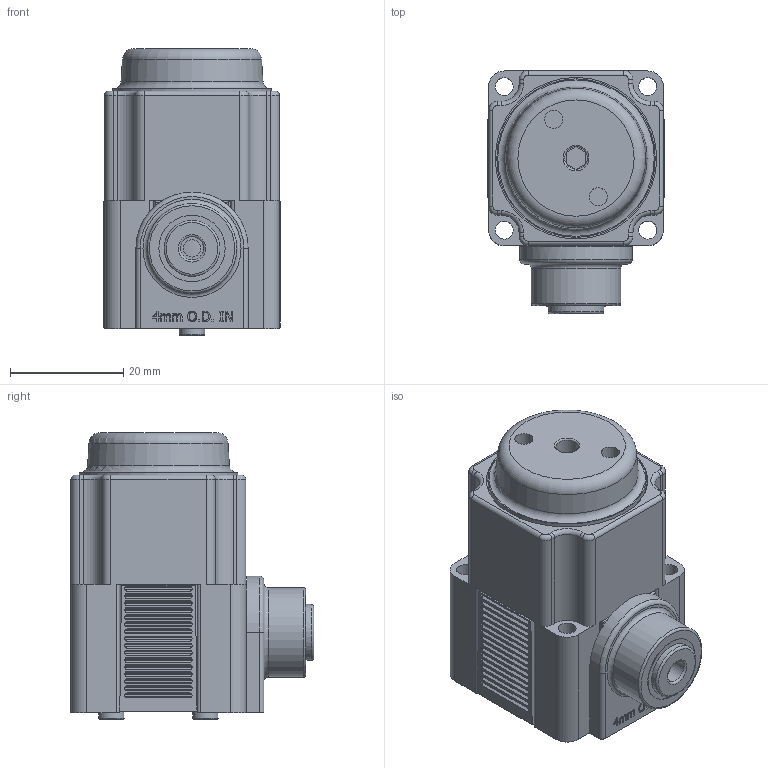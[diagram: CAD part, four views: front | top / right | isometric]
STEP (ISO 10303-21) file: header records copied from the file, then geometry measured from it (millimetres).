
FILE_DESCRIPTION(/* description */ (''),/* implementation_level */ '2;1');
FILE_NAME(/* name */ 'K:\Normteile INVENTOR\Air-Logic\Regulators\PR6000\PR 6___ 7 Push-In Fitting for 4mm O.D. Tube In.igs.ipt.stp',/* time_stamp */ '2020-05-27T10:53:08+02:00',/* author */ ('Paul'),/* organization */ (''),/* preprocessor_version */ 'ST-DEVELOPER v18',/* originating_system */ 'Autodesk Inventor 2020',/* authorisation */ '');
FILE_SCHEMA (('AUTOMOTIVE_DESIGN { 1 0 10303 214 3 1 1 }'));
Length unit declared in the file: inch
Products named in the file (1): PR 6___ 7 Push-In Fitting for 4mm O.D. Tube In.igs
Bounding box: 31.19 x 43.08 x 50.78 mm (x, y, z)
Volume: 41686.5 mm3; surface area: 13718.3 mm2
Topology: 1 solids, 1 shells, 790 faces, 2051 edges, 1352 vertices
Faces by surface type: plane 413, cylinder 274, bspline 66, torus 34, cone 3
Full cylindrical faces by diameter (mm): 1.194 x1, 2.032 x1, 3.073 x1, 3.124 x2, 3.175 x8, 3.226 x2, 4.013 x1, 4.089 x1, 4.521 x2, 6.045 x1, 8.382 x2, 9.169 x1, 9.398 x1, 9.906 x1, 11.735 x1, 12.903 x1, 15.85 x1, 25.781 x1, 28.047 x1, 28.575 x1
Entity records: 28226 total; most frequent: CARTESIAN_POINT 7815, DIRECTION 4108, ORIENTED_EDGE 4102, EDGE_CURVE 2051, AXIS2_PLACEMENT_3D 1555, VERTEX_POINT 1352, LINE 998, VECTOR 998
